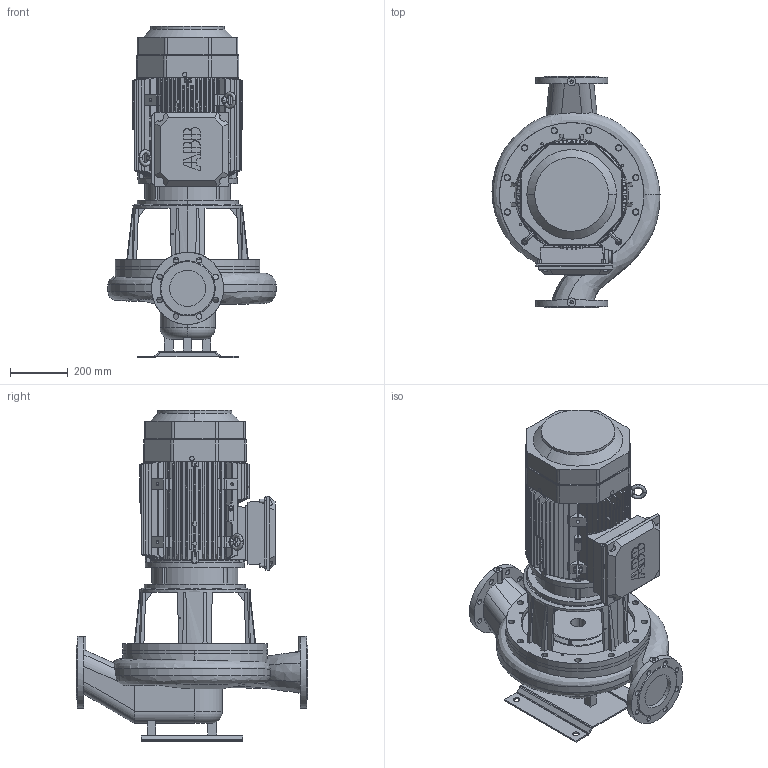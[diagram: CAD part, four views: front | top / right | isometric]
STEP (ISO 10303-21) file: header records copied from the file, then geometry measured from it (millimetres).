
FILE_DESCRIPTION(('STEP AP214'),'1');
FILE_NAME('export.stp','2018-05-30T07:06:13',(' '),(' '),'Spatial InterOp 3D',' ',' ');
FILE_SCHEMA(('AUTOMOTIVE_DESIGN { 1 0 10303 214 1 1 1 1 }'));
Length unit declared in the file: millimetre
Products named in the file (19): W_L125S4SD220ABB; V_TLL125SAL1250; V_PPL125S; P100496; P100495; P100342; P100935; IEC-180; 3GZV311000-999999-324000-324001_; 3GZV183002-193006-183002-183999_; -simplified-simplified_parts_Sta; -simplified-simplified_parts_M31; -simplified-simplified_parts_Fan; -simplified-simplified_parts_Ter; 3GZV244000-310999-294000-299999_; Implementation-STANDARD_PARTS_Li
Assembly tree (20 placements, depth 3):
  W_L125S4SD220ABB
    V_TLL125SAL1250
    V_PPL125S
    P100496
      P100495  x2
      P100342
    P100935
    IEC-180
      3GZV311000-999999-324000-324001_
      3GZV183002-193006-183002-183999_
      -simplified-simplified_parts_Sta
      -simplified-simplified_parts_M31
      -simplified-simplified_parts_Fan
      -simplified-simplified_parts_Ter
      -simplified-simplified_parts_Ter
      3GZV244000-310999-294000-299999_
      3GZV244000-310999-294000-299999_
      3GZV244000-310999-294000-299999_
      Implementation-STANDARD_PARTS_Li  x2
Bounding box: 581.53 x 800 x 1147.01 mm (x, y, z)
Volume: 97728417.2 mm3; surface area: 5645398.9 mm2
Topology: 13 solids, 143 shells, 1645 faces, 4715 edges, 3205 vertices
Faces by surface type: bspline 1259, cylinder 212, plane 122, cone 46, torus 6
Entity records: 86258 total; most frequent: CARTESIAN_POINT 28326, ORIENTED_EDGE 8615, STYLED_ITEM 4606, PRESENTATION_STYLE_ASSIGNMENT 4606, COLOUR_RGB 4606, EDGE_CURVE 4553, VERTEX_POINT 3094, CURVE_STYLE 2986
